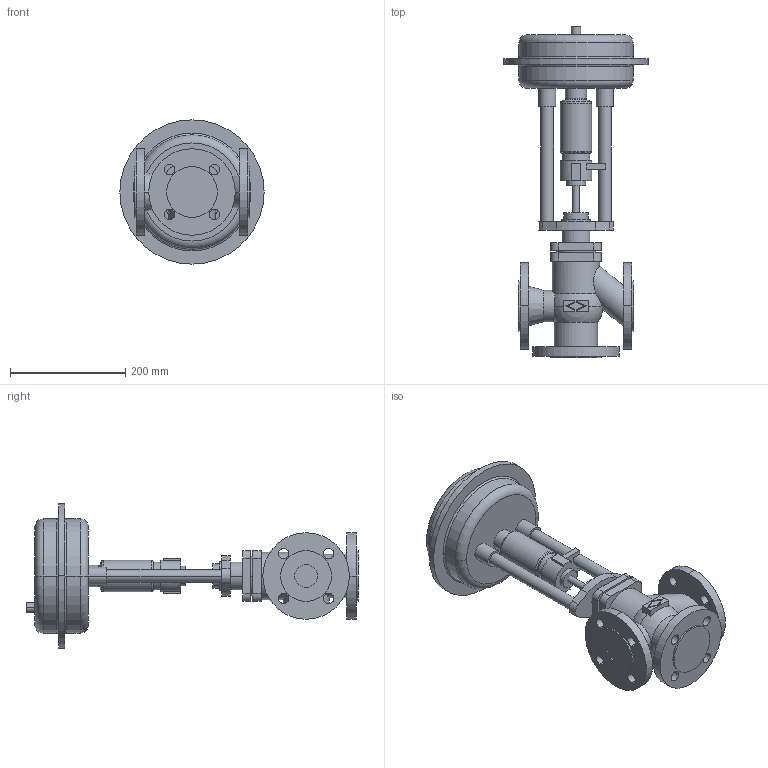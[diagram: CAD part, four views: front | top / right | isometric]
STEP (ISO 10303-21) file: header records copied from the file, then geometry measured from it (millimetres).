
FILE_DESCRIPTION(('OneSpaceDesigner STEP Export'),'2;1');
FILE_NAME('c000000654.stp','2006-09-13T12:58:52',(''),(''),'OneSpace Designer STEP processor for AP214 (Solid Model)','OneSpace Designer 13.20A 18-Aug-2005 (C) CoCreate Software GmbH','');
FILE_SCHEMA(('AUTOMOTIVE_DESIGN { 1 0 10303 214 1 1 1 1 }'));
Length unit declared in the file: millimetre
Products named in the file (2): 1; 2
Bounding box: 250 x 575.5 x 250 mm (x, y, z)
Volume: 5885517.4 mm3; surface area: 446655.1 mm2
Topology: 2 solids, 2 shells, 203 faces, 489 edges, 318 vertices
Faces by surface type: cylinder 98, plane 77, torus 16, sphere 6, cone 6
Entity records: 5678 total; most frequent: CARTESIAN_POINT 1311, ORIENTED_EDGE 978, DIRECTION 796, EDGE_CURVE 489, VERTEX_POINT 318, AXIS2_PLACEMENT_3D 291, EDGE_LOOP 255, VECTOR 214
